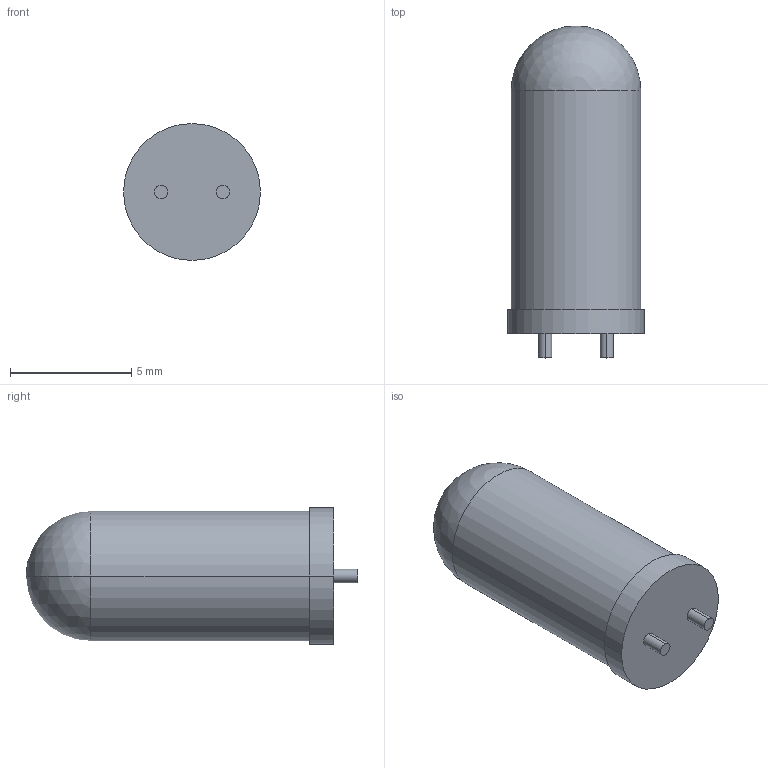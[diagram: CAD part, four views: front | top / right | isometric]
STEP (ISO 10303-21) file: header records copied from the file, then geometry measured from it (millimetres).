
FILE_DESCRIPTION (( 'STEP AP214' ), '1' );
FILE_NAME ( 'LEDRD254W000D565H1270P.STEP', '2014-04-11T12:31:23', ( '' ), ( '' ), 'FPX Expert 2013', 'PCB Libraries', '' );
FILE_SCHEMA (( 'AUTOMOTIVE_DESIGN' ));
Length unit declared in the file: millimetre
Products named in the file (1): LEDRD254W000D565H1270P
Bounding box: 5.65 x 13.7 x 5.65 mm (x, y, z)
Volume: 268.5 mm3; surface area: 246.5 mm2
Topology: 3 solids, 3 shells, 16 faces, 30 edges, 19 vertices
Faces by surface type: cylinder 8, plane 6, sphere 2
Entity records: 476 total; most frequent: DIRECTION 78, CARTESIAN_POINT 60, ORIENTED_EDGE 52, AXIS2_PLACEMENT_3D 35, EDGE_CURVE 26, STYLED_ITEM 20, PRESENTATION_LAYER_ASSIGNMENT 20, MECHANICAL_DESIGN_GEOMETRIC_PRESENTATION_REPRESENTATION 20
